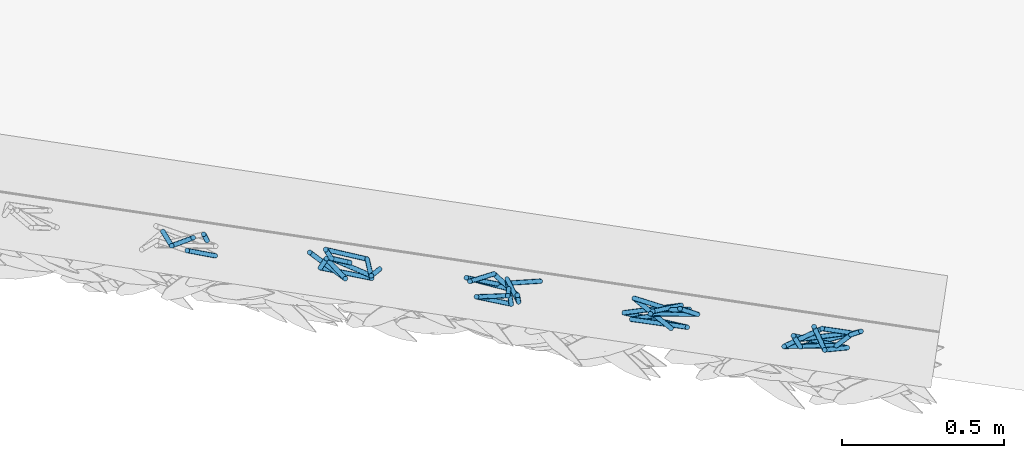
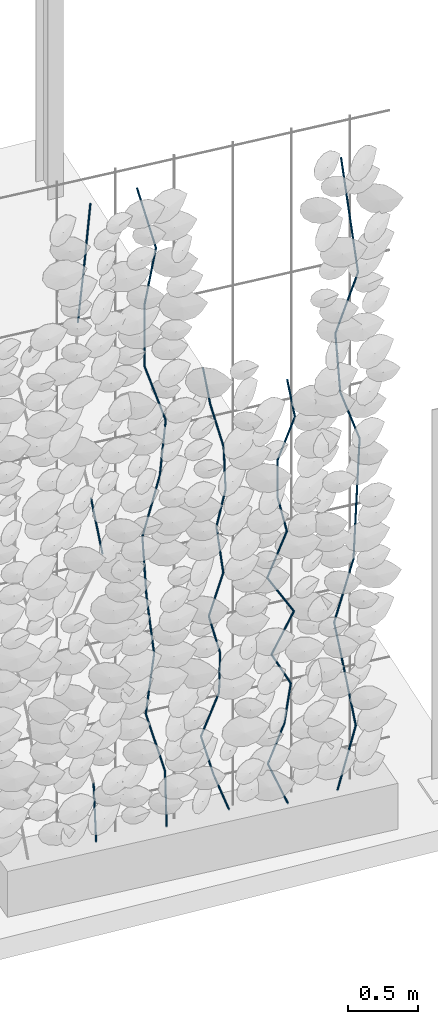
# One storey, part 125 of 142: 48 members, 1 element without a shape of its own.
"""IFC4 building model written with IfcOpenShell, lengths in metres."""

from ifc_helpers import new_model, si_unit, direction, frame, origin_with_axes, place, context, subcontext, project, spatial, circle, extrude, material, material_profile, profile_set, profile_usage, type_object, element, aggregate, save


model = new_model("IFC4")

# Units and contexts
model_context = context("Model", 3, precision=1e-05, world=origin_with_axes(), true_north=direction((0.0, 1.0)))
body_context = subcontext(model_context, "Body", "Model", "MODEL_VIEW")
ifc_project = project(units=[si_unit("AREAUNIT", "SQUARE_METRE"), si_unit("VOLUMEUNIT", "CUBIC_METRE"), si_unit("LENGTHUNIT", "METRE")], contexts=[model_context])

# Site, building, storey
site_placement = place(None, origin_with_axes())
site = spatial("IfcSite", under=ifc_project, at=site_placement, Name="Lares · Rua das Mercês · artigo 4771")
building_placement = place(site_placement, frame((15.0, 9.7, 14.65), z_axis=(0.0, 0.0, 1.0), x_axis=(0.989015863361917, -0.147809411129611, 0.0)))
building = spatial("IfcBuilding", under=site, at=building_placement, Name="Casa Sobreposta")
storey_placement = place(building_placement, origin_with_axes())
storey = spatial("IfcBuildingStorey", under=building, at=storey_placement, Name="00 · Habitação e estacionamento", Elevation=14.65)

# Assembly, members
assembly_placement = place(storey_placement, origin_with_axes())
assembly = element("IfcElementAssembly", 1, at=assembly_placement, inside=storey, Name="Fachada sul e pátio · estrutura e trepadeiras", ObjectType="LIVING_SHADE_TRELLIS", PredefinedType="USERDEFINED")
ifc_material = material(Name="Ramos de trepadeiras", Category="wood")
ifc_material_profile = material_profile(ifc_material, circle(Radius=0.0075))
ifc_profile_set = profile_set([ifc_material_profile], Name="D0.015")
ifc_profile_usage_1 = profile_usage(ifc_profile_set)
member_type = type_object("IfcMemberType", Name="D0.015 / vine_wood", PredefinedType="NOTDEFINED", material=ifc_profile_set)
member_1_placement = place(assembly_placement, frame((29.2283838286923, -1.66457891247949, 0.35), z_axis=(-0.0252439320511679, 0.0344689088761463, 0.999086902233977), x_axis=(0.999681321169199, 0.000870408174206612, 0.0252289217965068)))
member_1 = element("IfcMember", 2, at=member_1_placement, type_object=member_type, material=ifc_profile_usage_1, Name="Trepadeiras · ramo", context=body_context, shape_type="SweptSolid", body=[
    extrude(circle(Radius=0.0075), origin_with_axes(), (0.0, 0.0, 1.0), 0.508202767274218),
])
ifc_profile_usage_2 = profile_usage(ifc_profile_set)
member_2_placement = place(assembly_placement, frame((29.2600635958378, -1.70751102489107, 2.88869364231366), z_axis=(-0.169784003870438, 0.00616562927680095, 0.985462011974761), x_axis=(0.0362906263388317, 0.999341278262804, 0.0)))
member_2 = element("IfcMember", 3, at=member_2_placement, type_object=member_type, material=ifc_profile_usage_2, Name="Trepadeiras · ramo", context=body_context, shape_type="SweptSolid", body=[
    extrude(circle(Radius=0.0075), origin_with_axes(), (0.0, 0.0, 1.0), 0.515229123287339),
])
ifc_profile_usage_3 = profile_usage(ifc_profile_set)
member_3_placement = place(assembly_placement, frame((29.0901985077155, -1.6576110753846, 4.91964855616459), z_axis=(0.0644049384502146, -0.0771905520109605, 0.994933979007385), x_axis=(-0.767832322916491, -0.640650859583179, 0.0)))
member_3 = element("IfcMember", 4, at=member_3_placement, type_object=member_type, material=ifc_profile_usage_3, Name="Trepadeiras · ramo", context=body_context, shape_type="SweptSolid", body=[
    extrude(circle(Radius=0.0075), origin_with_axes(), (0.0, 0.0, 1.0), 0.510324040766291),
])
ifc_profile_usage_4 = profile_usage(ifc_profile_set)
member_4_placement = place(assembly_placement, frame((29.1230658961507, -1.69700326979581, 5.42738728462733), z_axis=(0.120473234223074, 0.0669973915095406, 0.990453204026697), x_axis=(0.486018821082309, -0.873948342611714, 0.0)))
member_4 = element("IfcMember", 5, at=member_4_placement, type_object=member_type, material=ifc_profile_usage_4, Name="Trepadeiras · ramo", context=body_context, shape_type="SweptSolid", body=[
    extrude(circle(Radius=0.0075), origin_with_axes(), (0.0, 0.0, 1.0), 0.512632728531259),
])
ifc_profile_usage_5 = profile_usage(ifc_profile_set)
member_5_placement = place(assembly_placement, frame((29.7668433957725, -1.67324367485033, 0.35), z_axis=(-0.0428066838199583, -0.0470108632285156, 0.997976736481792), x_axis=(-0.739395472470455, 0.673271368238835, 0.0)))
member_5 = element("IfcMember", 6, at=member_5_placement, type_object=member_type, material=ifc_profile_usage_5, Name="Trepadeiras · ramo", context=body_context, shape_type="SweptSolid", body=[
    extrude(circle(Radius=0.0075), origin_with_axes(), (0.0, 0.0, 1.0), 0.512141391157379),
])
ifc_profile_usage_6 = profile_usage(ifc_profile_set)
member_6_placement = place(assembly_placement, frame((29.7449203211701, -1.69731988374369, 0.861105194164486), z_axis=(-0.254221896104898, 0.0667168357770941, 0.96484200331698), x_axis=(0.253839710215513, 0.967246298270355, 0.0)))
member_6 = element("IfcMember", 7, at=member_6_placement, type_object=member_type, material=ifc_profile_usage_6, Name="Trepadeiras · ramo", context=body_context, shape_type="SweptSolid", body=[
    extrude(circle(Radius=0.0075), origin_with_axes(), (0.0, 0.0, 1.0), 0.529729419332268),
])
ifc_profile_usage_7 = profile_usage(ifc_profile_set)
member_7_placement = place(assembly_placement, frame((29.6102515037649, -1.66197801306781, 1.37221038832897), z_axis=(0.121962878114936, -0.00970701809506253, 0.992487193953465), x_axis=(-0.0793390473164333, -0.996847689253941, 0.0)))
member_7 = element("IfcMember", 8, at=member_7_placement, type_object=member_type, material=ifc_profile_usage_7, Name="Trepadeiras · ramo", context=body_context, shape_type="SweptSolid", body=[
    extrude(circle(Radius=0.0075), origin_with_axes(), (0.0, 0.0, 1.0), 0.514974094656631),
])
ifc_profile_usage_8 = profile_usage(ifc_profile_set)
member_8_placement = place(assembly_placement, frame((29.6730592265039, -1.66697687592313, 1.88331558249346), z_axis=(-0.11114571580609, 0.0078114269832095, 0.99377342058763), x_axis=(0.0701080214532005, 0.997539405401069, 9.67018947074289e-19)))
member_8 = element("IfcMember", 9, at=member_8_placement, type_object=member_type, material=ifc_profile_usage_8, Name="Trepadeiras · ramo", context=body_context, shape_type="SweptSolid", body=[
    extrude(circle(Radius=0.0075), origin_with_axes(), (0.0, 0.0, 1.0), 0.514307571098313),
])
ifc_profile_usage_9 = profile_usage(ifc_profile_set)
member_9_placement = place(assembly_placement, frame((29.6158961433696, -1.66295939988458, 2.39442077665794), z_axis=(-0.0428014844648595, 0.0480979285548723, 0.99792515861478), x_axis=(0.747040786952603, 0.664778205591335, 0.0)))
member_9 = element("IfcMember", 10, at=member_9_placement, type_object=member_type, material=ifc_profile_usage_9, Name="Trepadeiras · ramo", context=body_context, shape_type="SweptSolid", body=[
    extrude(circle(Radius=0.0075), origin_with_axes(), (0.0, 0.0, 1.0), 0.512167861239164),
])
ifc_profile_usage_10 = profile_usage(ifc_profile_set)
member_10_placement = place(assembly_placement, frame((29.5939745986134, -1.6383251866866, 2.90552597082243), z_axis=(0.247264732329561, -0.01922655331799, 0.968757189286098), x_axis=(-0.0775229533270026, -0.996990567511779, 0.0)))
member_10 = element("IfcMember", 11, at=member_10_placement, type_object=member_type, material=ifc_profile_usage_10, Name="Trepadeiras · ramo", context=body_context, shape_type="SweptSolid", body=[
    extrude(circle(Radius=0.0075), origin_with_axes(), (0.0, 0.0, 1.0), 0.52758854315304),
])
ifc_profile_usage_11 = profile_usage(ifc_profile_set)
member_11_placement = place(assembly_placement, frame((29.7244286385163, -1.64846889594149, 3.41663116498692), z_axis=(0.0440949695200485, -0.109390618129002, 0.993020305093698), x_axis=(-0.927483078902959, -0.373865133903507, 0.0)))
member_11 = element("IfcMember", 12, at=member_11_placement, type_object=member_type, material=ifc_profile_usage_11, Name="Trepadeiras · ramo", context=body_context, shape_type="SweptSolid", body=[
    extrude(circle(Radius=0.0075), origin_with_axes(), (0.0, 0.0, 1.0), 0.514697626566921),
])
ifc_profile_usage_12 = profile_usage(ifc_profile_set)
member_12_placement = place(assembly_placement, frame((29.7471242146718, -1.70477198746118, 3.9277363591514), z_axis=(-0.300432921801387, 0.0157623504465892, 0.953672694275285), x_axis=(0.0523933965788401, 0.998626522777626, 0.0)))
member_12 = element("IfcMember", 13, at=member_12_placement, type_object=member_type, material=ifc_profile_usage_12, Name="Trepadeiras · ramo", context=body_context, shape_type="SweptSolid", body=[
    extrude(circle(Radius=0.0075), origin_with_axes(), (0.0, 0.0, 1.0), 0.535933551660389),
])
ifc_profile_usage_13 = profile_usage(ifc_profile_set)
member_13_placement = place(assembly_placement, frame((29.5861121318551, -1.69632441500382, 4.43884155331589), z_axis=(0.0273818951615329, 0.0604129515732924, 0.997797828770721), x_axis=(0.910811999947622, -0.412821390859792, 0.0)))
member_13 = element("IfcMember", 14, at=member_13_placement, type_object=member_type, material=ifc_profile_usage_13, Name="Trepadeiras · ramo", context=body_context, shape_type="SweptSolid", body=[
    extrude(circle(Radius=0.0075), origin_with_axes(), (0.0, 0.0, 1.0), 0.51223321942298),
])
ifc_profile_usage_14 = profile_usage(ifc_profile_set)
member_14_placement = place(assembly_placement, frame((29.6001380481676, -1.66537889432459, 4.94994674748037), z_axis=(0.129038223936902, -0.101811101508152, 0.986399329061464), x_axis=(-0.619414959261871, -0.785063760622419, 0.0)))
member_14 = element("IfcMember", 15, at=member_14_placement, type_object=member_type, material=ifc_profile_usage_14, Name="Trepadeiras · ramo", context=body_context, shape_type="SweptSolid", body=[
    extrude(circle(Radius=0.0075), origin_with_axes(), (0.0, 0.0, 1.0), 0.518152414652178),
])
ifc_profile_usage_15 = profile_usage(ifc_profile_set)
member_15_placement = place(assembly_placement, frame((29.6669995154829, -1.71813256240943, 5.46105194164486), z_axis=(-0.227719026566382, 0.120705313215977, 0.966216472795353), x_axis=(0.468336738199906, 0.883550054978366, 0.0)))
member_15 = element("IfcMember", 16, at=member_15_placement, type_object=member_type, material=ifc_profile_usage_15, Name="Trepadeiras · ramo", context=body_context, shape_type="SweptSolid", body=[
    extrude(circle(Radius=0.0075), origin_with_axes(), (0.0, 0.0, 1.0), 0.528975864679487),
])
ifc_profile_usage_16 = profile_usage(ifc_profile_set)
member_16_placement = place(assembly_placement, frame((30.261618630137, -1.63679709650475, 0.35), z_axis=(-0.341987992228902, -0.073852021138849, 0.936797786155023), x_axis=(-0.211083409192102, 0.977468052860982, 0.0)))
member_16 = element("IfcMember", 17, at=member_16_placement, type_object=member_type, material=ifc_profile_usage_16, Name="Trepadeiras · ramo", context=body_context, shape_type="SweptSolid", body=[
    extrude(circle(Radius=0.0075), origin_with_axes(), (0.0, 0.0, 1.0), 0.381675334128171),
])
ifc_profile_usage_17 = profile_usage(ifc_profile_set)
member_17_placement = place(assembly_placement, frame((30.1310902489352, -1.66498459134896, 0.707552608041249), z_axis=(-0.258918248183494, 0.0129089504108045, 0.96581297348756), x_axis=(0.0497953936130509, 0.998759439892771, 0.0)))
member_17 = element("IfcMember", 18, at=member_17_placement, type_object=member_type, material=ifc_profile_usage_17, Name="Trepadeiras · ramo", context=body_context, shape_type="SweptSolid", body=[
    extrude(circle(Radius=0.0075), origin_with_axes(), (0.0, 0.0, 1.0), 0.370208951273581),
])
ifc_profile_usage_18 = profile_usage(ifc_profile_set)
member_18_placement = place(assembly_placement, frame((30.0352363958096, -1.66020558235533, 1.0651052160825), z_axis=(0.350865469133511, -0.0374713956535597, 0.935675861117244), x_axis=(-0.106193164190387, -0.994345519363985, 0.0)))
member_18 = element("IfcMember", 19, at=member_18_placement, type_object=member_type, material=ifc_profile_usage_18, Name="Trepadeiras · ramo", context=body_context, shape_type="SweptSolid", body=[
    extrude(circle(Radius=0.0075), origin_with_axes(), (0.0, 0.0, 1.0), 0.382132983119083),
])
ifc_profile_usage_19 = profile_usage(ifc_profile_set)
member_19_placement = place(assembly_placement, frame((30.1693136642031, -1.67452463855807, 1.42265782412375), z_axis=(0.000383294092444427, -0.0596842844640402, 0.998217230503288), x_axis=(-0.999979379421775, -0.00642189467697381, 0.0)))
member_19 = element("IfcMember", 20, at=member_19_placement, type_object=member_type, material=ifc_profile_usage_19, Name="Trepadeiras · ramo", context=body_context, shape_type="SweptSolid", body=[
    extrude(circle(Radius=0.0075), origin_with_axes(), (0.0, 0.0, 1.0), 0.358191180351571),
])
ifc_profile_usage_20 = profile_usage(ifc_profile_set)
member_20_placement = place(assembly_placement, frame((30.1694509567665, -1.69590302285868, 1.78021043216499), z_axis=(-0.256144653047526, -0.0477982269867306, 0.965455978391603), x_axis=(-0.183439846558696, 0.98303093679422, 0.0)))
member_20 = element("IfcMember", 21, at=member_20_placement, type_object=member_type, material=ifc_profile_usage_20, Name="Trepadeiras · ramo", context=body_context, shape_type="SweptSolid", body=[
    extrude(circle(Radius=0.0075), origin_with_axes(), (0.0, 0.0, 1.0), 0.370345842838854),
])
ifc_profile_usage_21 = profile_usage(ifc_profile_set)
member_21_placement = place(assembly_placement, frame((30.0745888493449, -1.71360489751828, 2.13776304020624), z_axis=(0.291697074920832, -0.0167889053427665, 0.956363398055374), x_axis=(-0.0574608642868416, -0.998347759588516, 0.0)))
member_21 = element("IfcMember", 22, at=member_21_placement, type_object=member_type, material=ifc_profile_usage_21, Name="Trepadeiras · ramo", context=body_context, shape_type="SweptSolid", body=[
    extrude(circle(Radius=0.0075), origin_with_axes(), (0.0, 0.0, 1.0), 0.373866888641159),
])
ifc_profile_usage_22 = profile_usage(ifc_profile_set)
member_22_placement = place(assembly_placement, frame((30.1836447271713, -1.71988171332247, 2.49531564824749), z_axis=(-0.064696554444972, 0.202860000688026, 0.977068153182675), x_axis=(0.95272176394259, 0.303844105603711, 7.96021462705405e-18)))
member_22 = element("IfcMember", 23, at=member_22_placement, type_object=member_type, material=ifc_profile_usage_22, Name="Trepadeiras · ramo", context=body_context, shape_type="SweptSolid", body=[
    extrude(circle(Radius=0.0075), origin_with_axes(), (0.0, 0.0, 1.0), 0.365944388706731),
])
ifc_profile_usage_23 = profile_usage(ifc_profile_set)
member_23_placement = place(assembly_placement, frame((30.1599693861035, -1.64564623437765, 2.85286825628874), z_axis=(0.123292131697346, -0.175486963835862, 0.976730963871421), x_axis=(-0.818242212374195, -0.574873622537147, 0.0)))
member_23 = element("IfcMember", 24, at=member_23_placement, type_object=member_type, material=ifc_profile_usage_23, Name="Trepadeiras · ramo", context=body_context, shape_type="SweptSolid", body=[
    extrude(circle(Radius=0.0075), origin_with_axes(), (0.0, 0.0, 1.0), 0.366070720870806),
])
ifc_profile_usage_24 = profile_usage(ifc_profile_set)
member_24_placement = place(assembly_placement, frame((30.2051030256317, -1.70988687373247, 3.21042086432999), z_axis=(-0.0181704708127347, 0.055018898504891, 0.998319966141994), x_axis=(0.949555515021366, 0.313598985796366, 0.0)))
member_24 = element("IfcMember", 25, at=member_24_placement, type_object=member_type, material=ifc_profile_usage_24, Name="Trepadeiras · ramo", context=body_context, shape_type="SweptSolid", body=[
    extrude(circle(Radius=0.0075), origin_with_axes(), (0.0, 0.0, 1.0), 0.358154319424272),
])
ifc_profile_usage_25 = profile_usage(ifc_profile_set)
member_25_placement = place(assembly_placement, frame((30.1985951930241, -1.69018161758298, 3.56797347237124), z_axis=(-0.219940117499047, 0.14657027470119, 0.964439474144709), x_axis=(0.554552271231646, 0.83214889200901, 0.0)))
member_25 = element("IfcMember", 26, at=member_25_placement, type_object=member_type, material=ifc_profile_usage_25, Name="Trepadeiras · ramo", context=body_context, shape_type="SweptSolid", body=[
    extrude(circle(Radius=0.0075), origin_with_axes(), (0.0, 0.0, 1.0), 0.370736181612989),
])
ifc_profile_usage_26 = profile_usage(ifc_profile_set)
member_26_placement = place(assembly_placement, frame((30.117055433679, -1.63584271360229, 3.92552608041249), z_axis=(-0.189986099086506, -0.0918125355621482, 0.977484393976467), x_axis=(-0.435114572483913, 0.90037509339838, 0.0)))
member_26 = element("IfcMember", 27, at=member_26_placement, type_object=member_type, material=ifc_profile_usage_26, Name="Trepadeiras · ramo", context=body_context, shape_type="SweptSolid", body=[
    extrude(circle(Radius=0.0075), origin_with_axes(), (0.0, 0.0, 1.0), 0.365788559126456),
])
ifc_profile_usage_27 = profile_usage(ifc_profile_set)
member_27_placement = place(assembly_placement, frame((30.6816189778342, -1.72103625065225, 0.35), z_axis=(-0.348194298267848, 0.206069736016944, 0.914492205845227), x_axis=(0.509312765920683, 0.860581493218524, 0.0)))
member_27 = element("IfcMember", 28, at=member_27_placement, type_object=member_type, material=ifc_profile_usage_27, Name="Trepadeiras · ramo", context=body_context, shape_type="SweptSolid", body=[
    extrude(circle(Radius=0.0075), origin_with_axes(), (0.0, 0.0, 1.0), 0.363374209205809),
])
ifc_profile_usage_28 = profile_usage(ifc_profile_set)
member_28_placement = place(assembly_placement, frame((30.5550941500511, -1.64615582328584, 0.682302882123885), z_axis=(0.33475661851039, -0.0529891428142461, 0.940813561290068), x_axis=(-0.156344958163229, -0.987702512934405, 0.0)))
member_28 = element("IfcMember", 29, at=member_28_placement, type_object=member_type, material=ifc_profile_usage_28, Name="Trepadeiras · ramo", context=body_context, shape_type="SweptSolid", body=[
    extrude(circle(Radius=0.0075), origin_with_axes(), (0.0, 0.0, 1.0), 0.353208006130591),
])
ifc_profile_usage_29 = profile_usage(ifc_profile_set)
member_29_placement = place(assembly_placement, frame((30.6733328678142, -1.66487201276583, 1.01460576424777), z_axis=(0.163555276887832, 0.0298620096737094, 0.986082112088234), x_axis=(0.179611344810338, -0.983737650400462, 0.0)))
member_29 = element("IfcMember", 30, at=member_29_placement, type_object=member_type, material=ifc_profile_usage_29, Name="Trepadeiras · ramo", context=body_context, shape_type="SweptSolid", body=[
    extrude(circle(Radius=0.0075), origin_with_axes(), (0.0, 0.0, 1.0), 0.336993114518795),
])
ifc_profile_usage_30 = profile_usage(ifc_profile_set)
member_30_placement = place(assembly_placement, frame((30.7284498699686, -1.6548087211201, 1.34690864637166), z_axis=(-0.452950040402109, -0.150341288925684, 0.87876831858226), x_axis=(-0.315016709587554, 0.949086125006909, 0.0)))
member_30 = element("IfcMember", 31, at=member_30_placement, type_object=member_type, material=ifc_profile_usage_30, Name="Trepadeiras · ramo", context=body_context, shape_type="SweptSolid", body=[
    extrude(circle(Radius=0.0075), origin_with_axes(), (0.0, 0.0, 1.0), 0.378146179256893),
])
ifc_profile_usage_31 = profile_usage(ifc_profile_set)
member_31_placement = place(assembly_placement, frame((30.5571685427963, -1.7116597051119, 1.67921152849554), z_axis=(0.462645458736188, 0.00382392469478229, 0.886535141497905), x_axis=(0.00826506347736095, -0.999965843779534, 0.0)))
member_31 = element("IfcMember", 32, at=member_31_placement, type_object=member_type, material=ifc_profile_usage_31, Name="Trepadeiras · ramo", context=body_context, shape_type="SweptSolid", body=[
    extrude(circle(Radius=0.0075), origin_with_axes(), (0.0, 0.0, 1.0), 0.37483328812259),
])
ifc_profile_usage_32 = profile_usage(ifc_profile_set)
member_32_placement = place(assembly_placement, frame((30.7305834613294, -1.71022637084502, 2.01151441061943), z_axis=(-0.514458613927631, 0.0391758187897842, 0.856619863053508), x_axis=(0.0759297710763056, 0.997113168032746, 0.0)))
member_32 = element("IfcMember", 33, at=member_32_placement, type_object=member_type, material=ifc_profile_usage_32, Name="Trepadeiras · ramo", context=body_context, shape_type="SweptSolid", body=[
    extrude(circle(Radius=0.0075), origin_with_axes(), (0.0, 0.0, 1.0), 0.387923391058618),
])
ifc_profile_usage_33 = profile_usage(ifc_profile_set)
member_33_placement = place(assembly_placement, frame((30.5310129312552, -1.69502915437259, 2.34381729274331), z_axis=(0.452918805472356, 0.129015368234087, 0.882167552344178), x_axis=(0.273955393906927, -0.961742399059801, 0.0)))
member_33 = element("IfcMember", 34, at=member_33_placement, type_object=member_type, material=ifc_profile_usage_33, Name="Trepadeiras · ramo", context=body_context, shape_type="SweptSolid", body=[
    extrude(circle(Radius=0.0075), origin_with_axes(), (0.0, 0.0, 1.0), 0.376689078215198),
])
ifc_profile_usage_34 = profile_usage(ifc_profile_set)
member_34_placement = place(assembly_placement, frame((30.7016224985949, -1.6464304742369, 2.6761201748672), z_axis=(-0.242328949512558, -0.0911697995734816, 0.96590100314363), x_axis=(-0.352127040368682, 0.935952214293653, 0.0)))
member_34 = element("IfcMember", 35, at=member_34_placement, type_object=member_type, material=ifc_profile_usage_34, Name="Trepadeiras · ramo", context=body_context, shape_type="SweptSolid", body=[
    extrude(circle(Radius=0.0075), origin_with_axes(), (0.0, 0.0, 1.0), 0.344034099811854),
])
ifc_profile_usage_35 = profile_usage(ifc_profile_set)
member_35_placement = place(assembly_placement, frame((30.618253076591, -1.67779599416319, 3.00842305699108), z_axis=(-0.018591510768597, -0.0255179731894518, 0.999501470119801), x_axis=(0.999827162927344, -0.000474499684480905, 0.0185854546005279)))
member_35 = element("IfcMember", 36, at=member_35_placement, type_object=member_type, material=ifc_profile_usage_35, Name="Trepadeiras · ramo", context=body_context, shape_type="SweptSolid", body=[
    extrude(circle(Radius=0.0075), origin_with_axes(), (0.0, 0.0, 1.0), 0.332468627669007),
])
ifc_profile_usage_36 = profile_usage(ifc_profile_set)
member_36_placement = place(assembly_placement, frame((30.6120719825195, -1.68627991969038, 3.34072593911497), z_axis=(0.395625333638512, 0.0554248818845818, 0.916738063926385), x_axis=(0.138739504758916, -0.990328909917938, 0.0)))
member_36 = element("IfcMember", 37, at=member_36_placement, type_object=member_type, material=ifc_profile_usage_36, Name="Trepadeiras · ramo", context=body_context, shape_type="SweptSolid", body=[
    extrude(circle(Radius=0.0075), origin_with_axes(), (0.0, 0.0, 1.0), 0.362484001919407),
])
ifc_profile_usage_37 = profile_usage(ifc_profile_set)
member_37_placement = place(assembly_placement, frame((30.7554798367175, -1.66618928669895, 3.67302882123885), z_axis=(-0.164939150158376, 0.0266499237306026, 0.985943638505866), x_axis=(0.159505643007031, 0.987197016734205, 0.0)))
member_37 = element("IfcMember", 38, at=member_37_placement, type_object=member_type, material=ifc_profile_usage_37, Name="Trepadeiras · ramo", context=body_context, shape_type="SweptSolid", body=[
    extrude(circle(Radius=0.0075), origin_with_axes(), (0.0, 0.0, 1.0), 0.337040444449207),
])
ifc_profile_usage_38 = profile_usage(ifc_profile_set)
member_38_placement = place(assembly_placement, frame((31.0679707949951, -1.69918109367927, 0.35), z_axis=(0.30526701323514, 0.0879293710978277, 0.948198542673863), x_axis=(0.276787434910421, -0.960931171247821, 0.0)))
member_38 = element("IfcMember", 39, at=member_38_placement, type_object=member_type, material=ifc_profile_usage_38, Name="Trepadeiras · ramo", context=body_context, shape_type="SweptSolid", body=[
    extrude(circle(Radius=0.0075), origin_with_axes(), (0.0, 0.0, 1.0), 0.525688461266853),
])
ifc_profile_usage_39 = profile_usage(ifc_profile_set)
member_39_placement = place(assembly_placement, frame((31.2284461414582, -1.65295763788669, 0.848457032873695), z_axis=(-0.171477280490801, -0.000359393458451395, 0.985188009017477), x_axis=(-0.00209586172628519, 0.9999978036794, 0.0)))
member_39 = element("IfcMember", 40, at=member_39_placement, type_object=member_type, material=ifc_profile_usage_39, Name="Trepadeiras · ramo", context=body_context, shape_type="SweptSolid", body=[
    extrude(circle(Radius=0.0075), origin_with_axes(), (0.0, 0.0, 1.0), 0.505951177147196),
])
ifc_profile_usage_40 = profile_usage(ifc_profile_set)
member_40_placement = place(assembly_placement, frame((31.1416870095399, -1.65313947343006, 1.34691406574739), z_axis=(-0.209536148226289, -0.138759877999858, 0.967905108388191), x_axis=(-0.552133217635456, 0.833755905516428, 1.33620471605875e-17)))
member_40 = element("IfcMember", 41, at=member_40_placement, type_object=member_type, material=ifc_profile_usage_40, Name="Trepadeiras · ramo", context=body_context, shape_type="SweptSolid", body=[
    extrude(circle(Radius=0.0075), origin_with_axes(), (0.0, 0.0, 1.0), 0.514985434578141),
])
ifc_profile_usage_41 = profile_usage(ifc_profile_set)
member_41_placement = place(assembly_placement, frame((31.0337789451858, -1.72459878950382, 1.84537109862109), z_axis=(0.303896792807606, 0.0499440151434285, 0.951394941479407), x_axis=(0.162169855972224, -0.986762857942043, 0.0)))
member_41 = element("IfcMember", 42, at=member_41_placement, type_object=member_type, material=ifc_profile_usage_41, Name="Trepadeiras · ramo", context=body_context, shape_type="SweptSolid", body=[
    extrude(circle(Radius=0.0075), origin_with_axes(), (0.0, 0.0, 1.0), 0.523922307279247),
])
ifc_profile_usage_42 = profile_usage(ifc_profile_set)
member_42_placement = place(assembly_placement, frame((31.1929972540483, -1.69843200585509, 2.34382813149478), z_axis=(0.0784318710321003, 0.0796506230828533, 0.993732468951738), x_axis=(0.71253711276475, -0.701634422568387, 0.0)))
member_42 = element("IfcMember", 43, at=member_42_placement, type_object=member_type, material=ifc_profile_usage_42, Name="Trepadeiras · ramo", context=body_context, shape_type="SweptSolid", body=[
    extrude(circle(Radius=0.0075), origin_with_axes(), (0.0, 0.0, 1.0), 0.501600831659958),
])
ifc_profile_usage_43 = profile_usage(ifc_profile_set)
member_43_placement = place(assembly_placement, frame((31.2323387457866, -1.6584791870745, 2.84228516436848), z_axis=(0.0579605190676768, 0.0295137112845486, 0.997882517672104), x_axis=(0.453762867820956, -0.891122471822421, 0.0)))
member_43 = element("IfcMember", 44, at=member_43_placement, type_object=member_type, material=ifc_profile_usage_43, Name="Trepadeiras · ramo", context=body_context, shape_type="SweptSolid", body=[
    extrude(circle(Radius=0.0075), origin_with_axes(), (0.0, 0.0, 1.0), 0.499514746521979),
])
ifc_profile_usage_44 = profile_usage(ifc_profile_set)
member_44_placement = place(assembly_placement, frame((31.261290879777, -1.64373665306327, 3.34074219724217), z_axis=(-0.333224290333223, -0.139669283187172, 0.932445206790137), x_axis=(-0.386562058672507, 0.922263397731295, 0.0)))
member_44 = element("IfcMember", 45, at=member_44_placement, type_object=member_type, material=ifc_profile_usage_44, Name="Trepadeiras · ramo", context=body_context, shape_type="SweptSolid", body=[
    extrude(circle(Radius=0.0075), origin_with_axes(), (0.0, 0.0, 1.0), 0.534569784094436),
])
ifc_profile_usage_45 = profile_usage(ifc_profile_set)
member_45_placement = place(assembly_placement, frame((31.0831592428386, -1.71839963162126, 3.83919923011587), z_axis=(-0.0511214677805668, 0.0604637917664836, 0.99686043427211), x_axis=(0.763636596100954, 0.645646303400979, 0.0)))
member_45 = element("IfcMember", 46, at=member_45_placement, type_object=member_type, material=ifc_profile_usage_45, Name="Trepadeiras · ramo", context=body_context, shape_type="SweptSolid", body=[
    extrude(circle(Radius=0.0075), origin_with_axes(), (0.0, 0.0, 1.0), 0.500026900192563),
])
ifc_profile_usage_46 = profile_usage(ifc_profile_set)
member_46_placement = place(assembly_placement, frame((31.0575971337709, -1.68816610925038, 4.33765626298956), z_axis=(0.321908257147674, -0.0224785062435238, 0.946503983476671), x_axis=(-0.0696592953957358, -0.997570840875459, 0.0)))
member_46 = element("IfcMember", 47, at=member_46_placement, type_object=member_type, material=ifc_profile_usage_46, Name="Trepadeiras · ramo", context=body_context, shape_type="SweptSolid", body=[
    extrude(circle(Radius=0.0075), origin_with_axes(), (0.0, 0.0, 1.0), 0.526629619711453),
])
ifc_profile_usage_47 = profile_usage(ifc_profile_set)
member_47_placement = place(assembly_placement, frame((31.2271235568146, -1.70000395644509, 4.83611329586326), z_axis=(-0.135139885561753, -0.033668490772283, 0.990254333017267), x_axis=(-0.241748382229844, 0.970338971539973, 0.0)))
member_47 = element("IfcMember", 48, at=member_47_placement, type_object=member_type, material=ifc_profile_usage_47, Name="Trepadeiras · ramo", context=body_context, shape_type="SweptSolid", body=[
    extrude(circle(Radius=0.0075), origin_with_axes(), (0.0, 0.0, 1.0), 0.503362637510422),
])
ifc_profile_usage_48 = profile_usage(ifc_profile_set)
member_48_placement = place(assembly_placement, frame((31.1590991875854, -1.71695141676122, 5.33457032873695), z_axis=(-0.0851428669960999, 0.130646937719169, 0.987766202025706), x_axis=(0.837791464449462, 0.545990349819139, 0.0)))
member_48 = element("IfcMember", 49, at=member_48_placement, type_object=member_type, material=ifc_profile_usage_48, Name="Trepadeiras · ramo", context=body_context, shape_type="SweptSolid", body=[
    extrude(circle(Radius=0.0075), origin_with_axes(), (0.0, 0.0, 1.0), 0.504630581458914),
])
aggregate(assembly, [member_1, member_2, member_3, member_4, member_5, member_6, member_7, member_8, member_9, member_10, member_11, member_12, member_13, member_14, member_15, member_16, member_17, member_18, member_19, member_20, member_21, member_22, member_23, member_24, member_25, member_26, member_27, member_28, member_29, member_30, member_31, member_32, member_33, member_34, member_35, member_36, member_37, member_38, member_39, member_40, member_41, member_42, member_43, member_44, member_45, member_46, member_47, member_48])

save(model, "model.ifc")
